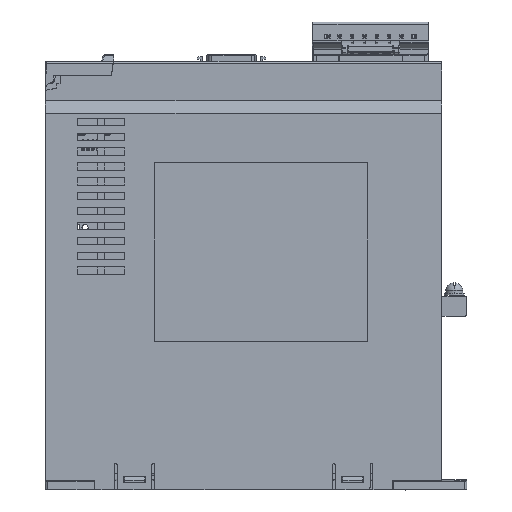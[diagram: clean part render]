
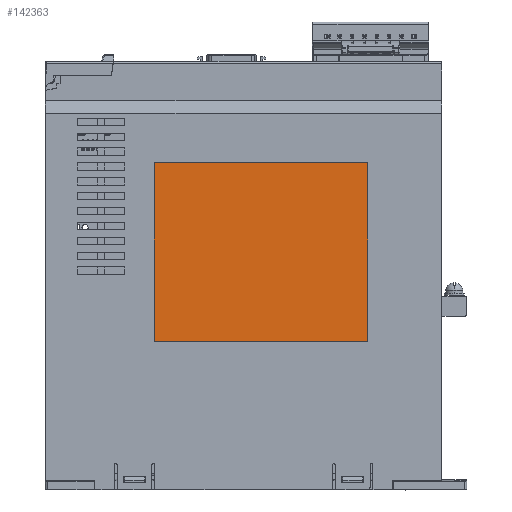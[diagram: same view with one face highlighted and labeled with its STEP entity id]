
A CAD part, left-side view. The second image highlights one B-rep face of the part: STEP entity #142363.
In plain terms, the highlighted planar face has unit normal (-1, 0, 0).
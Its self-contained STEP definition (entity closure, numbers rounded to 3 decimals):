
#50547=DIRECTION('',(0.,1.,0.));
#50548=VECTOR('',#50547,86.);
#50549=CARTESIAN_POINT('',(-24.8,-50.,60.));
#50550=LINE('',#50549,#50548);
#50551=DIRECTION('',(0.,0.,1.));
#50552=VECTOR('',#50551,72.);
#50553=CARTESIAN_POINT('',(-24.8,36.,60.));
#50554=LINE('',#50553,#50552);
#50555=DIRECTION('',(0.,-1.,0.));
#50556=VECTOR('',#50555,86.);
#50557=CARTESIAN_POINT('',(-24.8,36.,132.));
#50558=LINE('',#50557,#50556);
#50567=DIRECTION('',(0.,0.,1.));
#50568=VECTOR('',#50567,72.);
#50569=CARTESIAN_POINT('',(-24.8,-50.,60.));
#50570=LINE('',#50569,#50568);
#69389=CARTESIAN_POINT('',(-24.8,36.,132.));
#69390=VERTEX_POINT('',#69389);
#69391=CARTESIAN_POINT('',(-24.8,36.,60.));
#69392=VERTEX_POINT('',#69391);
#69393=CARTESIAN_POINT('',(-24.8,-50.,132.));
#69394=VERTEX_POINT('',#69393);
#69395=CARTESIAN_POINT('',(-24.8,-50.,60.));
#69396=VERTEX_POINT('',#69395);
#142350=CARTESIAN_POINT('',(-24.8,0.,0.));
#142351=DIRECTION('',(-1.,0.,0.));
#142352=DIRECTION('',(0.,-1.,0.));
#142353=AXIS2_PLACEMENT_3D('',#142350,#142351,#142352);
#142354=PLANE('',#142353);
#142356=ORIENTED_EDGE('',*,*,#142355,.T.);
#142357=ORIENTED_EDGE('',*,*,#142329,.T.);
#142358=ORIENTED_EDGE('',*,*,#142341,.T.);
#142360=ORIENTED_EDGE('',*,*,#142359,.F.);
#142361=EDGE_LOOP('',(#142356,#142357,#142358,#142360));
#142362=FACE_OUTER_BOUND('',#142361,.F.);
#142363=ADVANCED_FACE('',(#142362),#142354,.T.);
#142329=EDGE_CURVE('',#69392,#69390,#50554,.T.);
#142341=EDGE_CURVE('',#69390,#69394,#50558,.T.);
#142355=EDGE_CURVE('',#69396,#69392,#50550,.T.);
#142359=EDGE_CURVE('',#69396,#69394,#50570,.T.);
